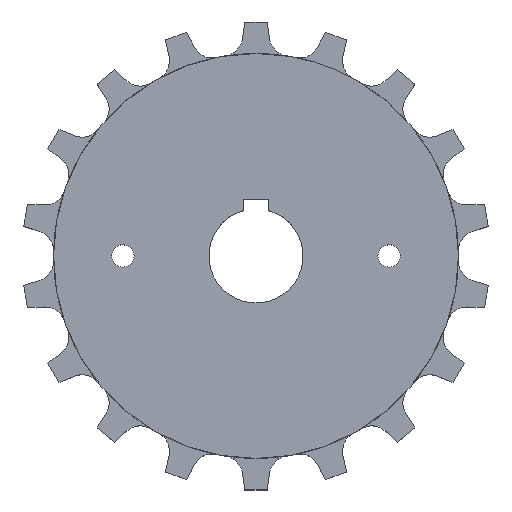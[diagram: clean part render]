
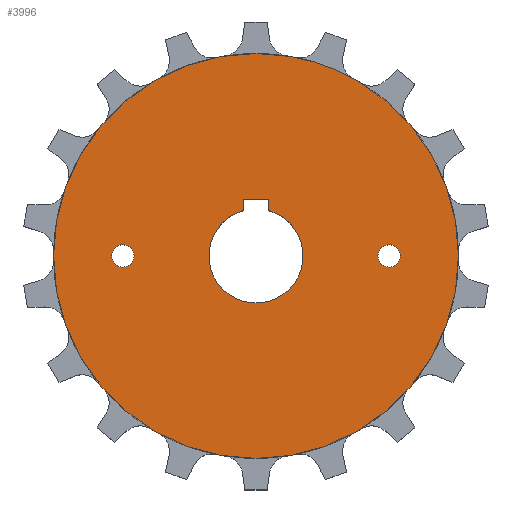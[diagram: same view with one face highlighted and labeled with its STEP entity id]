
A CAD part, top view. The second image highlights one B-rep face of the part: STEP entity #3996.
In plain terms, the highlighted planar face has unit normal (0, 0, 1).
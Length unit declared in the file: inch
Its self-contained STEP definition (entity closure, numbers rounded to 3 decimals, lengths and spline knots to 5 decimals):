
#43=CARTESIAN_POINT('',(0.,0.,0.375));
#44=DIRECTION('',(0.,0.,1.));
#45=DIRECTION('',(0.174,0.985,0.));
#46=AXIS2_PLACEMENT_3D('',#43,#44,#45);
#1383=CARTESIAN_POINT('',(0.,0.,0.375));
#1384=DIRECTION('',(0.,0.,1.));
#1385=DIRECTION('',(0.5,0.866,0.));
#1386=AXIS2_PLACEMENT_3D('',#1383,#1384,#1385);
#1388=CARTESIAN_POINT('',(1.67,0.,0.375));
#1389=DIRECTION('',(0.,0.,1.));
#1390=DIRECTION('',(1.,0.,0.));
#1391=AXIS2_PLACEMENT_3D('',#1388,#1389,#1390);
#1393=CARTESIAN_POINT('',(1.67,0.,0.375));
#1394=DIRECTION('',(0.,0.,1.));
#1395=DIRECTION('',(-1.,0.,0.));
#1396=AXIS2_PLACEMENT_3D('',#1393,#1394,#1395);
#1398=CARTESIAN_POINT('',(-1.67,0.,0.375));
#1399=DIRECTION('',(0.,0.,1.));
#1400=DIRECTION('',(1.,0.,0.));
#1401=AXIS2_PLACEMENT_3D('',#1398,#1399,#1400);
#1403=CARTESIAN_POINT('',(-1.67,0.,0.375));
#1404=DIRECTION('',(0.,0.,1.));
#1405=DIRECTION('',(-1.,0.,0.));
#1406=AXIS2_PLACEMENT_3D('',#1403,#1404,#1405);
#1408=DIRECTION('',(0.,-1.,0.));
#1409=VECTOR('',#1408,0.138);
#1410=CARTESIAN_POINT('',(-0.1575,0.70711,0.375));
#1411=LINE('',#1410,#1409);
#1412=CARTESIAN_POINT('',(0.,0.,0.375));
#1413=DIRECTION('',(0.,0.,1.));
#1414=DIRECTION('',(-0.267,0.964,0.));
#1415=AXIS2_PLACEMENT_3D('',#1412,#1413,#1414);
#1417=DIRECTION('',(0.,1.,0.));
#1418=VECTOR('',#1417,0.138);
#1419=CARTESIAN_POINT('',(0.1575,0.56911,0.375));
#1420=LINE('',#1419,#1418);
#1421=DIRECTION('',(-1.,0.,0.));
#1422=VECTOR('',#1421,0.315);
#1423=CARTESIAN_POINT('',(0.1575,0.70711,0.375));
#1424=LINE('',#1423,#1422);
#1684=CARTESIAN_POINT('',(0.44089,2.50042,0.375));
#1686=VERTEX_POINT('',#1684);
#1688=CARTESIAN_POINT('',(1.2695,2.19884,0.375));
#1690=VERTEX_POINT('',#1688);
#1843=CARTESIAN_POINT('',(1.8105,0.,0.375));
#1844=CARTESIAN_POINT('',(1.5295,0.,0.375));
#1845=VERTEX_POINT('',#1843);
#1846=VERTEX_POINT('',#1844);
#1847=CARTESIAN_POINT('',(-1.5295,0.,0.375));
#1848=CARTESIAN_POINT('',(-1.8105,0.,0.375));
#1849=VERTEX_POINT('',#1847);
#1850=VERTEX_POINT('',#1848);
#1859=CARTESIAN_POINT('',(-0.1575,0.70711,0.375));
#1860=CARTESIAN_POINT('',(-0.1575,0.56911,0.375));
#1861=VERTEX_POINT('',#1859);
#1862=VERTEX_POINT('',#1860);
#1863=CARTESIAN_POINT('',(0.1575,0.56911,0.375));
#1864=VERTEX_POINT('',#1863);
#1865=CARTESIAN_POINT('',(0.1575,0.70711,0.375));
#1866=VERTEX_POINT('',#1865);
#3964=CARTESIAN_POINT('',(0.,0.,0.375));
#3965=DIRECTION('',(0.,0.,1.));
#3966=DIRECTION('',(1.,0.,0.));
#3967=AXIS2_PLACEMENT_3D('',#3964,#3965,#3966);
#3968=PLANE('',#3967);
#3969=ORIENTED_EDGE('',*,*,#2050,.F.);
#3971=ORIENTED_EDGE('',*,*,#3970,.F.);
#3972=EDGE_LOOP('',(#3969,#3971));
#3973=FACE_OUTER_BOUND('',#3972,.F.);
#3975=ORIENTED_EDGE('',*,*,#3974,.T.);
#3977=ORIENTED_EDGE('',*,*,#3976,.T.);
#3978=EDGE_LOOP('',(#3975,#3977));
#3979=FACE_BOUND('',#3978,.F.);
#3981=ORIENTED_EDGE('',*,*,#3980,.T.);
#3983=ORIENTED_EDGE('',*,*,#3982,.T.);
#3984=EDGE_LOOP('',(#3981,#3983));
#3985=FACE_BOUND('',#3984,.F.);
#3987=ORIENTED_EDGE('',*,*,#3986,.T.);
#3989=ORIENTED_EDGE('',*,*,#3988,.T.);
#3991=ORIENTED_EDGE('',*,*,#3990,.T.);
#3993=ORIENTED_EDGE('',*,*,#3992,.T.);
#3994=EDGE_LOOP('',(#3987,#3989,#3991,#3993));
#3995=FACE_BOUND('',#3994,.F.);
#3996=ADVANCED_FACE('',(#3973,#3979,#3985,#3995),#3968,.T.);
#47=CIRCLE('',#46,2.539);
#1387=CIRCLE('',#1386,2.539);
#1392=CIRCLE('',#1391,0.1405);
#1397=CIRCLE('',#1396,0.1405);
#1402=CIRCLE('',#1401,0.1405);
#1407=CIRCLE('',#1406,0.1405);
#1416=CIRCLE('',#1415,0.5905);
#2050=EDGE_CURVE('',#1686,#1690,#47,.T.);
#3970=EDGE_CURVE('',#1690,#1686,#1387,.T.);
#3974=EDGE_CURVE('',#1845,#1846,#1392,.T.);
#3976=EDGE_CURVE('',#1846,#1845,#1397,.T.);
#3980=EDGE_CURVE('',#1849,#1850,#1402,.T.);
#3982=EDGE_CURVE('',#1850,#1849,#1407,.T.);
#3986=EDGE_CURVE('',#1861,#1862,#1411,.T.);
#3988=EDGE_CURVE('',#1862,#1864,#1416,.T.);
#3990=EDGE_CURVE('',#1864,#1866,#1420,.T.);
#3992=EDGE_CURVE('',#1866,#1861,#1424,.T.);
